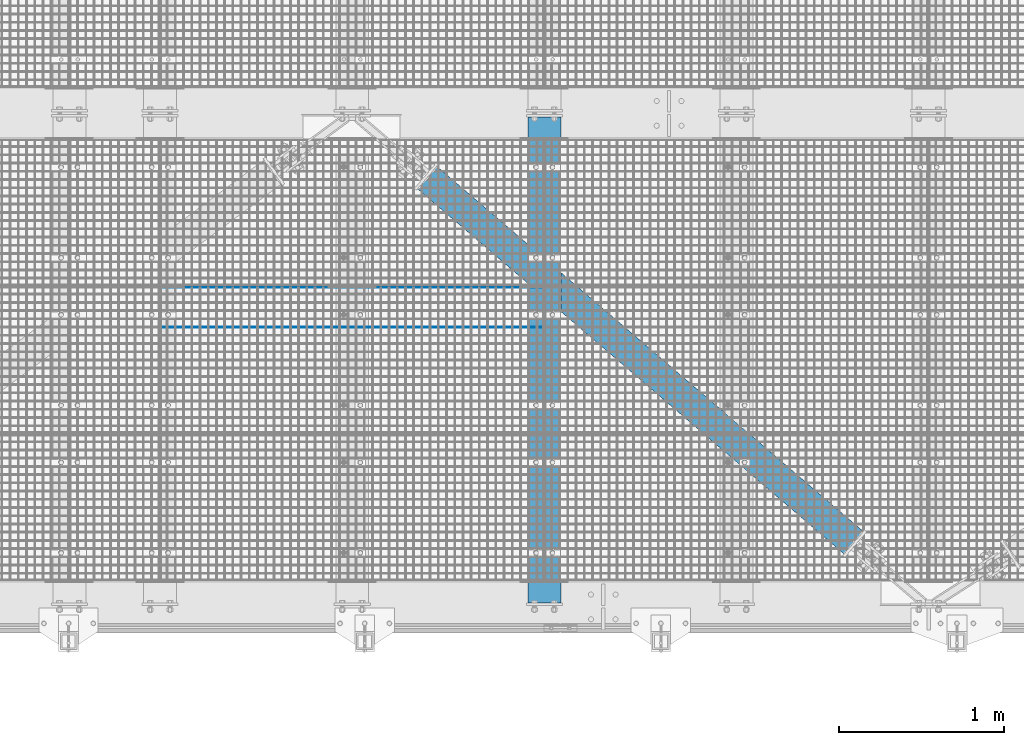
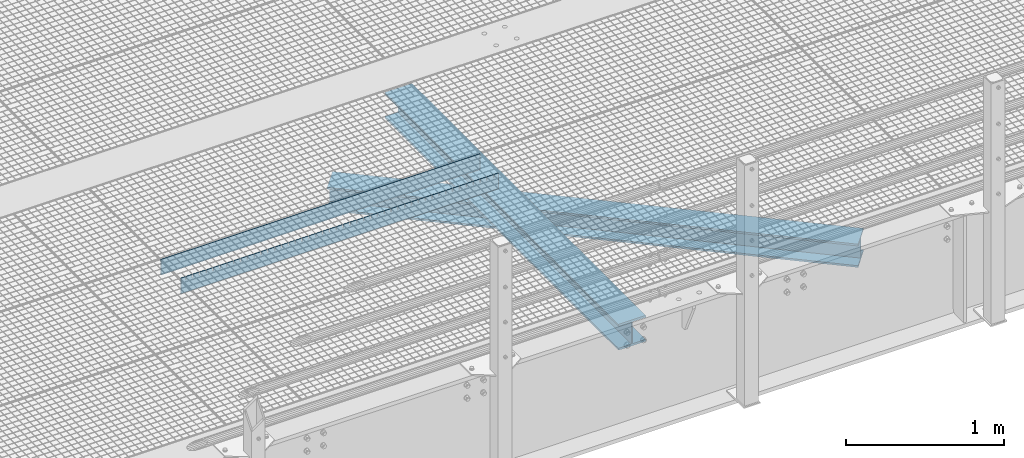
# One storey, part 218 of 1530: 4 beams.
"""IFC2X3 building model written with IfcOpenShell, lengths in millimetres."""

from ifc_helpers import new_model, si_unit, frame, origin_with_axes, place, context, subcontext, project, spatial, faceted_brep, material, type_object, element, save


model = new_model("IFC2X3")

# Units and contexts
model_context = context("Model", 3, precision=1e-05, world=origin_with_axes())
body_context = subcontext(model_context, "Body", "Model", "MODEL_VIEW")
ifc_project = project(units=[si_unit("LENGTHUNIT", "METRE", prefix="MILLI"), si_unit("AREAUNIT", "SQUARE_METRE"), si_unit("VOLUMEUNIT", "CUBIC_METRE"), si_unit("MASSUNIT", "GRAM", prefix="KILO"), si_unit("TIMEUNIT", "SECOND"), si_unit("PLANEANGLEUNIT", "RADIAN"), si_unit("SOLIDANGLEUNIT", "STERADIAN"), si_unit("THERMODYNAMICTEMPERATUREUNIT", "DEGREE_CELSIUS"), si_unit("LUMINOUSINTENSITYUNIT", "LUMEN")], contexts=[model_context])

# Site, building, storey
site_placement = place(None, origin_with_axes())
site = spatial("IfcSite", under=ifc_project, at=site_placement, Name="Brattvåg", CompositionType="ELEMENT")
building_placement = place(site_placement, origin_with_axes())
building = spatial("IfcBuilding", under=site, at=building_placement, Name="Undefined", CompositionType="ELEMENT")
storey_placement = place(building_placement, origin_with_axes())
storey = spatial("IfcBuildingStorey", under=building, at=storey_placement, Name="Undefined", CompositionType="ELEMENT", Elevation=0.0)

# Beams
ifc_material_1 = material(Name="STEEL/S355J2")
beam_type_1 = type_object("IfcBeamType", Name="120*5", PredefinedType="NOTDEFINED")
beam_1_placement = place(storey_placement, frame((5234.01317977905, 1699.9952545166, -59.9998626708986), z_axis=(0.0, 0.0, 1.0), x_axis=(-1.0, 1.99999855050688e-09, 0.0)))
element("IfcBeam", 1, at=beam_1_placement, inside=storey, type_object=beam_type_1, material=ifc_material_1, Name="GRATING", context=body_context, shape_type="Brep", body=[
    faceted_brep([(83.5790367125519, -2.50000000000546, 60.0000722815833), (83.5790367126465, -2.50000000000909, 35.0001373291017), (83.5790367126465, 2.50022888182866, 35.0001373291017), (83.5790367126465, 2.5, 60.0), (88.5790367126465, -2.50000000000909, 35.0001373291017), (88.5790367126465, 2.50022888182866, 35.0001373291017), (88.5790367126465, -2.50000000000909, 60.0001373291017), (88.5790367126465, 2.5, 60.0), (38.6284370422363, -2.50000000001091, 60.0001373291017), (38.6284370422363, 2.5, 60.0), (38.6284370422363, 2.49999999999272, 35.0001373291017), (38.6284370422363, -2.50000000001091, 35.0001373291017), (33.6284370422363, 2.49999999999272, 35.0001373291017), (33.6284370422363, -2.50000000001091, 35.0001373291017), (33.6284370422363, -2.5, 60.0), (33.6284370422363, 2.5, 60.0), (0.0, 2.5, 60.0), (0.0, -2.5, 60.0), (0.0, -2.5, -60.0), (0.0, 2.5, -60.0), (2319.99865722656, 2.5, -60.0), (2319.99865722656, -2.5, -60.0), (2319.99865722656, -2.5, 60.0), (2319.99865722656, 2.5, 60.0), (2286.37871932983, 2.5, 60.0), (2286.37871932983, -2.50000000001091, 60.0001373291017), (2286.37871932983, 2.49999999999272, 35.0001373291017), (2286.37871932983, -2.50000000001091, 35.0001373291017), (2281.37871932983, 2.49999999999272, 35.0001373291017), (2281.37871932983, -2.50000000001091, 35.0001373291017), (2281.37871932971, -2.50000000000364, 60.0000634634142), (2281.37871932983, 2.5, 60.0), (2236.42859649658, 2.5, 60.0), (2236.42859649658, -2.50000000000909, 60.0001373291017), (2236.42859649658, 2.50022888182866, 35.0001373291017), (2236.42859649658, -2.50000000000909, 35.0001373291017), (2231.42859649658, 2.50022888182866, 35.0001373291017), (2231.42859649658, -2.50000000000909, 35.0001373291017), (2231.42859649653, -2.50000000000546, 60.0000910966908), (2231.42859649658, 2.5, 60.0), (2186.47847366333, 2.5, 60.0), (2186.47847366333, -2.50000000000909, 60.0001373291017), (2186.47847366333, 2.50022888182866, 35.0001373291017), (2186.47847366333, -2.50000000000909, 35.0001373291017), (2181.47847366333, 2.50022888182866, 35.0001373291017), (2181.47847366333, -2.50000000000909, 35.0001373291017), (2181.47847366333, -2.5, 60.0), (2181.47847366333, 2.5, 60.0), (2136.52882766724, 2.5, 60.0), (2136.52882766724, -2.50000000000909, 60.0001373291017), (2136.52882766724, 2.50022888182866, 35.0001373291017), (2136.52882766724, -2.50000000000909, 35.0001373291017), (2131.52882766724, 2.50022888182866, 35.0001373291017), (2131.52882766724, -2.50000000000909, 35.0001373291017), (2131.52882766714, -2.50000000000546, 60.0000722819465), (2131.52882766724, 2.5, 60.0), (2086.57870483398, 2.5, 60.0), (2086.57870483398, -2.50000000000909, 60.0001373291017), (2086.57870483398, 2.50022888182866, 35.0001373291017), (2086.57870483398, -2.50000000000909, 35.0001373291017), (2081.57870483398, 2.50022888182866, 35.0001373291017), (2081.57870483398, -2.50000000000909, 35.0001373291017), (2081.57870483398, -2.5, 60.0), (2081.57870483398, 2.5, 60.0), (2036.62858200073, 2.5, 60.0), (2036.62858200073, -2.50000000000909, 60.0001373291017), (2036.62858200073, 2.50022888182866, 35.0001373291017), (2036.62858200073, -2.50000000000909, 35.0001373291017), (2031.62858200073, 2.50022888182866, 35.0001373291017), (2031.62858200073, -2.50000000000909, 35.0001373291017), (2031.62858200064, -2.50000000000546, 60.0000722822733), (2031.62858200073, 2.5, 60.0), (1986.67845916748, 2.5, 60.0), (1986.67845916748, -2.50000000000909, 60.0001373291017), (1986.67845916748, 2.50022888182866, 35.0001373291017), (1986.67845916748, -2.50000000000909, 35.0001373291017), (1981.67845916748, 2.50022888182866, 35.0001373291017), (1981.67845916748, -2.50000000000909, 35.0001373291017), (1981.67845916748, -2.5, 60.0), (1981.67845916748, 2.5, 60.0), (1936.72881317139, 2.5, 60.0), (1936.72881317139, -2.50000000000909, 60.0001373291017), (1936.72881317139, 2.50022888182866, 35.0001373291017), (1936.72881317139, -2.50000000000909, 35.0001373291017), (1931.72881317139, 2.50022888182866, 35.0001373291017), (1931.72881317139, -2.50000000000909, 35.0001373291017), (1931.72881317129, -2.50000000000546, 60.0000722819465), (1931.72881317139, 2.5, 60.0), (1886.77869033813, 2.5, 60.0), (1886.77869033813, -2.50000000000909, 60.0001373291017), (1886.77869033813, 2.50022888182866, 35.0001373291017), (1886.77869033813, -2.50000000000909, 35.0001373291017), (1881.77869033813, 2.50022888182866, 35.0001373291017), (1881.77869033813, -2.50000000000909, 35.0001373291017), (1881.77869033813, -2.5, 60.0), (1881.77869033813, 2.5, 60.0), (1836.82856750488, 2.5, 60.0), (1836.82856750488, -2.50000000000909, 60.0001373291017), (1836.82856750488, 2.50022888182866, 35.0001373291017), (1836.82856750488, -2.50000000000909, 35.0001373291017), (1831.82856750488, 2.50022888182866, 35.0001373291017), (1831.82856750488, -2.50000000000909, 35.0001373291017), (1831.82856750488, -2.5, 60.0), (1831.82856750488, 2.5, 60.0), (1786.87892150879, 2.5, 60.0), (1786.87892150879, -2.50000000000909, 60.0001373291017), (1786.87892150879, 2.50022888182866, 35.0001373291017), (1786.87892150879, -2.50000000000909, 35.0001373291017), (1781.87892150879, 2.50022888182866, 35.0001373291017), (1781.87892150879, -2.50000000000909, 35.0001373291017), (1781.87892150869, -2.50000000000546, 60.0000722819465), (1781.87892150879, 2.5, 60.0), (1736.92879867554, 2.5, 60.0), (1736.92879867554, -2.50000000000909, 60.0001373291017), (1736.92879867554, 2.50022888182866, 35.0001373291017), (1736.92879867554, -2.50000000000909, 35.0001373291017), (1731.92879867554, 2.50022888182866, 35.0001373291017), (1731.92879867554, -2.50000000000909, 35.0001373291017), (1731.92879867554, -2.5, 60.0), (1731.92879867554, 2.5, 60.0), (1686.97867584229, 2.5, 60.0), (1686.97867584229, -2.50000000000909, 60.0001373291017), (1686.97867584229, 2.50022888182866, 35.0001373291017), (1686.97867584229, -2.50000000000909, 35.0001373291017), (1681.97867584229, 2.50022888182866, 35.0001373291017), (1681.97867584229, -2.50000000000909, 35.0001373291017), (1681.97867584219, -2.50000000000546, 60.0000722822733), (1681.97867584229, 2.5, 60.0), (1637.02855300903, 2.5, 60.0), (1637.02855300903, -2.50000000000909, 60.0001373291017), (1637.02855300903, 2.50022888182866, 35.0001373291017), (1637.02855300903, -2.50000000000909, 35.0001373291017), (1632.02855300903, 2.50022888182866, 35.0001373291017), (1632.02855300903, -2.50000000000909, 35.0001373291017), (1632.02855300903, -2.5, 60.0), (1632.02855300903, 2.5, 60.0), (1587.07890701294, 2.5, 60.0), (1587.07890701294, -2.50000000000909, 60.0001373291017), (1587.07890701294, 2.50022888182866, 35.0001373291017), (1587.07890701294, -2.50000000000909, 35.0001373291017), (1582.07890701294, 2.50022888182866, 35.0001373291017), (1582.07890701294, -2.50000000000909, 35.0001373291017), (1582.07890701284, -2.50000000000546, 60.0000722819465), (1582.07890701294, 2.5, 60.0), (1537.12878417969, 2.5, 60.0), (1537.12878417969, -2.50000000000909, 60.0001373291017), (1537.12878417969, 2.50022888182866, 35.0001373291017), (1537.12878417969, -2.50000000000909, 35.0001373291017), (1532.12878417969, 2.50022888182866, 35.0001373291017), (1532.12878417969, -2.50000000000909, 35.0001373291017), (1532.12878417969, -2.5, 60.0), (1532.12878417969, 2.5, 60.0), (1487.17866134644, 2.5, 60.0), (1487.17866134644, -2.50000000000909, 60.0001373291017), (1487.17866134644, 2.50022888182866, 35.0001373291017), (1487.17866134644, -2.50000000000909, 35.0001373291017), (1482.17866134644, 2.50022888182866, 35.0001373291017), (1482.17866134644, -2.50000000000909, 35.0001373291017), (1482.17866134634, -2.50000000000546, 60.0000722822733), (1482.17866134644, 2.5, 60.0), (1437.22853851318, 2.5, 60.0), (1437.22853851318, -2.50000000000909, 60.0001373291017), (1437.22853851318, 2.50022888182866, 35.0001373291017), (1437.22853851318, -2.50000000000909, 35.0001373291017), (1432.22853851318, 2.50022888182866, 35.0001373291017), (1432.22853851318, -2.50000000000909, 35.0001373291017), (1432.22853851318, -2.5, 60.0), (1432.22853851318, 2.5, 60.0), (1387.27889251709, 2.5, 60.0), (1387.27889251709, -2.50000000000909, 60.0001373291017), (1387.27889251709, 2.50022888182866, 35.0001373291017), (1387.27889251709, -2.50000000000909, 35.0001373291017), (1382.27889251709, 2.50022888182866, 35.0001373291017), (1382.27889251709, -2.50000000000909, 35.0001373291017), (1382.278892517, -2.50000000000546, 60.0000722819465), (1382.27889251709, 2.5, 60.0), (1337.32876968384, 2.5, 60.0), (1337.32876968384, -2.50000000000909, 60.0001373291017), (1337.32876968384, 2.50022888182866, 35.0001373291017), (1337.32876968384, -2.50000000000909, 35.0001373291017), (1332.32876968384, 2.50022888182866, 35.0001373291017), (1332.32876968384, -2.50000000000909, 35.0001373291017), (1332.32876968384, -2.5, 60.0), (1332.32876968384, 2.5, 60.0), (1287.37864685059, 2.5, 60.0), (1287.37864685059, -2.50000000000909, 60.0001373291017), (1287.37864685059, 2.50022888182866, 35.0001373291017), (1287.37864685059, -2.50000000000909, 35.0001373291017), (1282.37864685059, 2.50022888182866, 35.0001373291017), (1282.37864685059, -2.50000000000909, 35.0001373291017), (1282.37864685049, -2.50000000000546, 60.0000722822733), (1282.37864685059, 2.5, 60.0), (1237.42852401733, 2.5, 60.0), (1237.42852401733, -2.50000000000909, 60.0001373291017), (1237.42852401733, 2.50022888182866, 35.0001373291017), (1237.42852401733, -2.50000000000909, 35.0001373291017), (1232.42852401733, 2.50022888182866, 35.0001373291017), (1232.42852401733, -2.50000000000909, 35.0001373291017), (1232.42852401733, -2.5, 60.0), (1232.42852401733, 2.5, 60.0), (1187.47887802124, 2.5, 60.0), (1187.47887802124, -2.50000000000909, 60.0001373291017), (1187.47887802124, 2.50022888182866, 35.0001373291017), (1187.47887802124, -2.50000000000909, 35.0001373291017), (1182.47887802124, 2.50022888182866, 35.0001373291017), (1182.47887802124, -2.50000000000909, 35.0001373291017), (1182.47887802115, -2.50000000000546, 60.0000722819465), (1182.47887802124, 2.5, 60.0), (1137.52875518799, 2.5, 60.0), (1137.52875518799, -2.50000000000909, 60.0001373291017), (1137.52875518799, 2.50022888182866, 35.0001373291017), (1137.52875518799, -2.50000000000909, 35.0001373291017), (1132.52875518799, 2.50022888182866, 35.0001373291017), (1132.52875518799, -2.50000000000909, 35.0001373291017), (1132.52875518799, -2.5, 60.0), (1132.52875518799, 2.5, 60.0), (1087.57863235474, 2.5, 60.0), (1087.57863235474, -2.50000000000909, 60.0001373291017), (1087.57863235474, 2.50022888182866, 35.0001373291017), (1087.57863235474, -2.50000000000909, 35.0001373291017), (1082.57863235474, 2.50022888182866, 35.0001373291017), (1082.57863235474, -2.50000000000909, 35.0001373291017), (1082.57863235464, -2.50000000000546, 60.0000722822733), (1082.57863235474, 2.5, 60.0), (1037.62850952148, 2.5, 60.0), (1037.62850952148, -2.50000000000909, 60.0001373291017), (1037.62850952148, 2.50022888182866, 35.0001373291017), (1037.62850952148, -2.50000000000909, 35.0001373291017), (1032.62850952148, 2.50022888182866, 35.0001373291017), (1032.62850952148, -2.50000000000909, 35.0001373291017), (1032.62850952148, -2.5, 60.0), (1032.62850952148, 2.5, 60.0), (987.678863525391, 2.5, 60.0), (987.678863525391, -2.50000000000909, 60.0001373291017), (987.678863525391, 2.50022888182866, 35.0001373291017), (987.678863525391, -2.50000000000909, 35.0001373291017), (982.678863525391, 2.50022888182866, 35.0001373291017), (982.678863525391, -2.50000000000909, 35.0001373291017), (982.678863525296, -2.50000000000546, 60.0000722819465), (982.678863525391, 2.5, 60.0), (937.728740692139, 2.5, 60.0), (937.728740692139, -2.50000000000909, 60.0001373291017), (937.728740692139, 2.50022888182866, 35.0001373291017), (937.728740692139, -2.50000000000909, 35.0001373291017), (932.728740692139, 2.50022888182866, 35.0001373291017), (932.728740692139, -2.50000000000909, 35.0001373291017), (932.728740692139, -2.5, 60.0), (932.728740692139, 2.5, 60.0), (887.778617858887, 2.5, 60.0), (887.778617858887, -2.50000000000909, 60.0001373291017), (887.778617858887, 2.50022888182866, 35.0001373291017), (887.778617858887, -2.50000000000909, 35.0001373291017), (882.778617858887, 2.50022888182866, 35.0001373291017), (882.778617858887, -2.50000000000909, 35.0001373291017), (882.778617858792, -2.50000000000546, 60.0000722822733), (882.778617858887, 2.5, 60.0), (837.828495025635, 2.5, 60.0), (837.828495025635, -2.50000000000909, 60.0001373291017), (837.828495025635, 2.50022888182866, 35.0001373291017), (837.828495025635, -2.50000000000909, 35.0001373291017), (832.828495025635, 2.50022888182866, 35.0001373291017), (832.828495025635, -2.50000000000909, 35.0001373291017), (832.828495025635, -2.5, 60.0), (832.828495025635, 2.5, 60.0), (787.878849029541, 2.5, 60.0), (787.878849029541, -2.50000000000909, 60.0001373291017), (787.878849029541, 2.50022888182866, 35.0001373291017), (787.878849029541, -2.50000000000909, 35.0001373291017), (782.878849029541, 2.50022888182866, 35.0001373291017), (782.878849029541, -2.50000000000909, 35.0001373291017), (782.878849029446, -2.50000000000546, 60.0000722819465), (782.878849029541, 2.5, 60.0), (737.928726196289, 2.5, 60.0), (737.928726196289, -2.50000000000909, 60.0001373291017), (737.928726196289, 2.50022888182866, 35.0001373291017), (737.928726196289, -2.50000000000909, 35.0001373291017), (732.928726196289, 2.50022888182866, 35.0001373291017), (732.928726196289, -2.50000000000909, 35.0001373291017), (732.928726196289, -2.5, 60.0), (732.928726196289, 2.5, 60.0), (687.978603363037, 2.5, 60.0), (687.978603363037, -2.50000000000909, 60.0001373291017), (687.978603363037, 2.50022888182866, 35.0001373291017), (687.978603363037, -2.50000000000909, 35.0001373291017), (682.978603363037, 2.50022888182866, 35.0001373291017), (682.978603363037, -2.50000000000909, 35.0001373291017), (682.978603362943, -2.50000000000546, 60.0000722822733), (682.978603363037, 2.5, 60.0), (638.028480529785, 2.5, 60.0), (638.028480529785, -2.50000000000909, 60.0001373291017), (638.028480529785, 2.50022888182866, 35.0001373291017), (638.028480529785, -2.50000000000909, 35.0001373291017), (633.028480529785, 2.50022888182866, 35.0001373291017), (633.028480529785, -2.50000000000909, 35.0001373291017), (633.028480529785, -2.5, 60.0), (633.028480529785, 2.5, 60.0), (588.078834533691, 2.5, 60.0), (588.078834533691, -2.50000000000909, 60.0001373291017), (588.078834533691, 2.50022888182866, 35.0001373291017), (588.078834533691, -2.50000000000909, 35.0001373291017), (583.078834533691, 2.50022888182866, 35.0001373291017), (583.078834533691, -2.50000000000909, 35.0001373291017), (583.078834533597, -2.50000000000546, 60.0000722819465), (583.078834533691, 2.5, 60.0), (538.128711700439, 2.5, 60.0), (538.128711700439, -2.50000000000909, 60.0001373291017), (538.128711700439, 2.50022888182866, 35.0001373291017), (538.128711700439, -2.50000000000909, 35.0001373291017), (533.128711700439, 2.50022888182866, 35.0001373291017), (533.128711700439, -2.50000000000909, 35.0001373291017), (533.128711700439, -2.5, 60.0), (533.128711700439, 2.5, 60.0), (488.178588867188, 2.5, 60.0), (488.178588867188, -2.50000000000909, 60.0001373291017), (488.178588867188, 2.50022888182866, 35.0001373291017), (488.178588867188, -2.50000000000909, 35.0001373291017), (483.178588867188, 2.50022888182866, 35.0001373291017), (483.178588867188, -2.50000000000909, 35.0001373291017), (483.178588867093, -2.50000000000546, 60.0000722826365), (483.178588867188, 2.5, 60.0), (438.228942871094, 2.5, 60.0), (438.228942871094, -2.50000000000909, 60.0001373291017), (438.228942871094, 2.50022888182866, 35.0001373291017), (438.228942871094, -2.50000000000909, 35.0001373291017), (433.228942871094, 2.50022888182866, 35.0001373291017), (433.228942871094, -2.50000000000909, 35.0001373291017), (433.228942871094, -2.5, 60.0), (433.228942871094, 2.5, 60.0), (388.278820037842, 2.5, 60.0), (388.278820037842, -2.50000000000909, 60.0001373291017), (388.278820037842, 2.50022888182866, 35.0001373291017), (388.278820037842, -2.50000000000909, 35.0001373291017), (383.278820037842, 2.50022888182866, 35.0001373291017), (383.278820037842, -2.50000000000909, 35.0001373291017), (383.278820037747, -2.50000000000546, 60.0000722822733), (383.278820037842, 2.5, 60.0), (338.32869720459, 2.5, 60.0), (338.32869720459, -2.50000000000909, 60.0001373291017), (338.32869720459, 2.50022888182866, 35.0001373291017), (338.32869720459, -2.50000000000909, 35.0001373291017), (333.32869720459, 2.50022888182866, 35.0001373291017), (333.32869720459, -2.50000000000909, 35.0001373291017), (333.32869720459, -2.5, 60.0), (333.32869720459, 2.5, 60.0), (288.378574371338, 2.5, 60.0), (288.378574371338, -2.50000000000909, 60.0001373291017), (288.378574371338, 2.50022888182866, 35.0001373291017), (288.378574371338, -2.50000000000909, 35.0001373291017), (283.378574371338, 2.50022888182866, 35.0001373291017), (283.378574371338, -2.50000000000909, 35.0001373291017), (283.378574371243, -2.50000000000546, 60.0000722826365), (283.378574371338, 2.5, 60.0), (238.428928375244, 2.5, 60.0), (238.428928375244, -2.50000000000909, 60.0001373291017), (238.428928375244, 2.50022888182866, 35.0001373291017), (238.428928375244, -2.50000000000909, 35.0001373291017), (233.428928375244, 2.50022888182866, 35.0001373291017), (233.428928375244, -2.50000000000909, 35.0001373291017), (233.428928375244, -2.5, 60.0), (233.428928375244, 2.5, 60.0), (188.478328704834, 2.5, 60.0), (188.478328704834, -2.50000000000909, 60.0001373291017), (188.478328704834, 2.50022888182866, 35.0001373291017), (188.478328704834, -2.50000000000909, 35.0001373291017), (183.478328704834, 2.50022888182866, 35.0001373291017), (183.478328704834, -2.50000000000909, 35.0001373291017), (183.478328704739, -2.50000000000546, 60.0000722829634), (183.478328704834, 2.5, 60.0), (138.52868270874, 2.5, 60.0), (138.52868270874, -2.50000000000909, 60.0001373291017), (138.52868270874, 2.50022888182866, 35.0001373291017), (138.52868270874, -2.50000000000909, 35.0001373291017), (133.52868270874, 2.50022888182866, 35.0001373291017), (133.52868270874, -2.50000000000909, 35.0001373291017), (133.52868270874, -2.5, 60.0), (133.52868270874, 2.5, 60.0)], [[[0, 1, 2, 3]], [[4, 5, 2, 1]], [[6, 7, 5, 4]], [[8, 9, 10, 11]], [[11, 10, 12, 13]], [[14, 13, 12, 15]], [[16, 17, 14, 15]], [[18, 17, 16, 19]], [[18, 19, 20, 21]], [[22, 21, 20, 23]], [[22, 23, 24, 25]], [[25, 24, 26, 27]], [[27, 26, 28, 29]], [[30, 29, 28, 31]], [[32, 33, 30, 31]], [[33, 32, 34, 35]], [[35, 34, 36, 37]], [[38, 37, 36, 39]], [[40, 41, 38, 39]], [[41, 40, 42, 43]], [[43, 42, 44, 45]], [[46, 45, 44, 47]], [[46, 47, 48, 49]], [[49, 48, 50, 51]], [[51, 50, 52, 53]], [[54, 53, 52, 55]], [[56, 57, 54, 55]], [[57, 56, 58, 59]], [[59, 58, 60, 61]], [[62, 61, 60, 63]], [[62, 63, 64, 65]], [[65, 64, 66, 67]], [[67, 66, 68, 69]], [[70, 69, 68, 71]], [[72, 73, 70, 71]], [[73, 72, 74, 75]], [[75, 74, 76, 77]], [[78, 77, 76, 79]], [[78, 79, 80, 81]], [[81, 80, 82, 83]], [[83, 82, 84, 85]], [[86, 85, 84, 87]], [[88, 89, 86, 87]], [[89, 88, 90, 91]], [[91, 90, 92, 93]], [[94, 93, 92, 95]], [[94, 95, 96, 97]], [[97, 96, 98, 99]], [[99, 98, 100, 101]], [[102, 101, 100, 103]], [[102, 103, 104, 105]], [[105, 104, 106, 107]], [[107, 106, 108, 109]], [[110, 109, 108, 111]], [[112, 113, 110, 111]], [[113, 112, 114, 115]], [[115, 114, 116, 117]], [[118, 117, 116, 119]], [[118, 119, 120, 121]], [[121, 120, 122, 123]], [[123, 122, 124, 125]], [[126, 125, 124, 127]], [[128, 129, 126, 127]], [[129, 128, 130, 131]], [[131, 130, 132, 133]], [[134, 133, 132, 135]], [[134, 135, 136, 137]], [[137, 136, 138, 139]], [[139, 138, 140, 141]], [[142, 141, 140, 143]], [[144, 145, 142, 143]], [[145, 144, 146, 147]], [[147, 146, 148, 149]], [[150, 149, 148, 151]], [[150, 151, 152, 153]], [[153, 152, 154, 155]], [[155, 154, 156, 157]], [[158, 157, 156, 159]], [[160, 161, 158, 159]], [[161, 160, 162, 163]], [[163, 162, 164, 165]], [[166, 165, 164, 167]], [[166, 167, 168, 169]], [[169, 168, 170, 171]], [[171, 170, 172, 173]], [[174, 173, 172, 175]], [[176, 177, 174, 175]], [[177, 176, 178, 179]], [[179, 178, 180, 181]], [[182, 181, 180, 183]], [[182, 183, 184, 185]], [[185, 184, 186, 187]], [[187, 186, 188, 189]], [[190, 189, 188, 191]], [[192, 193, 190, 191]], [[193, 192, 194, 195]], [[195, 194, 196, 197]], [[198, 197, 196, 199]], [[198, 199, 200, 201]], [[201, 200, 202, 203]], [[203, 202, 204, 205]], [[206, 205, 204, 207]], [[208, 209, 206, 207]], [[209, 208, 210, 211]], [[211, 210, 212, 213]], [[214, 213, 212, 215]], [[214, 215, 216, 217]], [[217, 216, 218, 219]], [[219, 218, 220, 221]], [[222, 221, 220, 223]], [[224, 225, 222, 223]], [[225, 224, 226, 227]], [[227, 226, 228, 229]], [[230, 229, 228, 231]], [[230, 231, 232, 233]], [[233, 232, 234, 235]], [[235, 234, 236, 237]], [[238, 237, 236, 239]], [[240, 241, 238, 239]], [[241, 240, 242, 243]], [[243, 242, 244, 245]], [[246, 245, 244, 247]], [[246, 247, 248, 249]], [[249, 248, 250, 251]], [[251, 250, 252, 253]], [[254, 253, 252, 255]], [[256, 257, 254, 255]], [[257, 256, 258, 259]], [[259, 258, 260, 261]], [[262, 261, 260, 263]], [[262, 263, 264, 265]], [[265, 264, 266, 267]], [[267, 266, 268, 269]], [[270, 269, 268, 271]], [[272, 273, 270, 271]], [[273, 272, 274, 275]], [[275, 274, 276, 277]], [[278, 277, 276, 279]], [[278, 279, 280, 281]], [[281, 280, 282, 283]], [[283, 282, 284, 285]], [[286, 285, 284, 287]], [[288, 289, 286, 287]], [[289, 288, 290, 291]], [[291, 290, 292, 293]], [[294, 293, 292, 295]], [[294, 295, 296, 297]], [[297, 296, 298, 299]], [[299, 298, 300, 301]], [[302, 301, 300, 303]], [[304, 305, 302, 303]], [[305, 304, 306, 307]], [[307, 306, 308, 309]], [[310, 309, 308, 311]], [[310, 311, 312, 313]], [[313, 312, 314, 315]], [[315, 314, 316, 317]], [[318, 317, 316, 319]], [[320, 321, 318, 319]], [[321, 320, 322, 323]], [[323, 322, 324, 325]], [[326, 325, 324, 327]], [[326, 327, 328, 329]], [[329, 328, 330, 331]], [[331, 330, 332, 333]], [[334, 333, 332, 335]], [[336, 337, 334, 335]], [[337, 336, 338, 339]], [[339, 338, 340, 341]], [[342, 341, 340, 343]], [[342, 343, 344, 345]], [[345, 344, 346, 347]], [[347, 346, 348, 349]], [[350, 349, 348, 351]], [[352, 353, 350, 351]], [[353, 352, 354, 355]], [[355, 354, 356, 357]], [[358, 357, 356, 359]], [[358, 359, 360, 361]], [[361, 360, 362, 363]], [[363, 362, 364, 365]], [[366, 365, 364, 367]], [[368, 369, 366, 367]], [[369, 368, 370, 371]], [[371, 370, 372, 373]], [[374, 373, 372, 375]], [[1, 0, 8, 11, 13, 14, 17, 18, 21, 22, 25, 27, 29, 30, 33, 35, 37, 38, 41, 43, 45, 46, 49, 51, 53, 54, 57, 59, 61, 62, 65, 67, 69, 70, 73, 75, 77, 78, 81, 83, 85, 86, 89, 91, 93, 94, 97, 99, 101, 102, 105, 107, 109, 110, 113, 115, 117, 118, 121, 123, 125, 126, 129, 131, 133, 134, 137, 139, 141, 142, 145, 147, 149, 150, 153, 155, 157, 158, 161, 163, 165, 166, 169, 171, 173, 174, 177, 179, 181, 182, 185, 187, 189, 190, 193, 195, 197, 198, 201, 203, 205, 206, 209, 211, 213, 214, 217, 219, 221, 222, 225, 227, 229, 230, 233, 235, 237, 238, 241, 243, 245, 246, 249, 251, 253, 254, 257, 259, 261, 262, 265, 267, 269, 270, 273, 275, 277, 278, 281, 283, 285, 286, 289, 291, 293, 294, 297, 299, 301, 302, 305, 307, 309, 310, 313, 315, 317, 318, 321, 323, 325, 326, 329, 331, 333, 334, 337, 339, 341, 342, 345, 347, 349, 350, 353, 355, 357, 358, 361, 363, 365, 366, 369, 371, 373, 374, 6, 4]], [[9, 8, 0, 3]], [[375, 372, 370, 368, 367, 364, 362, 360, 359, 356, 354, 352, 351, 348, 346, 344, 343, 340, 338, 336, 335, 332, 330, 328, 327, 324, 322, 320, 319, 316, 314, 312, 311, 308, 306, 304, 303, 300, 298, 296, 295, 292, 290, 288, 287, 284, 282, 280, 279, 276, 274, 272, 271, 268, 266, 264, 263, 260, 258, 256, 255, 252, 250, 248, 247, 244, 242, 240, 239, 236, 234, 232, 231, 228, 226, 224, 223, 220, 218, 216, 215, 212, 210, 208, 207, 204, 202, 200, 199, 196, 194, 192, 191, 188, 186, 184, 183, 180, 178, 176, 175, 172, 170, 168, 167, 164, 162, 160, 159, 156, 154, 152, 151, 148, 146, 144, 143, 140, 138, 136, 135, 132, 130, 128, 127, 124, 122, 120, 119, 116, 114, 112, 111, 108, 106, 104, 103, 100, 98, 96, 95, 92, 90, 88, 87, 84, 82, 80, 79, 76, 74, 72, 71, 68, 66, 64, 63, 60, 58, 56, 55, 52, 50, 48, 47, 44, 42, 40, 39, 36, 34, 32, 31, 28, 26, 24, 23, 20, 19, 16, 15, 12, 10, 9, 3, 2, 5, 7]], [[374, 375, 7, 6]]]),
])
beam_2_placement = place(storey_placement, frame((5239.00899291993, 1941.49917602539, -59.9998626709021), z_axis=(0.0, 0.0, 1.0), x_axis=(-1.0, 1.99999855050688e-09, 0.0)))
element("IfcBeam", 2, at=beam_2_placement, inside=storey, type_object=beam_type_1, material=ifc_material_1, Name="GRATING", context=body_context, shape_type="Brep", body=[
    faceted_brep([(0.0, 2.5, -60.0), (0.0, 2.5, 60.0), (2329.99832153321, 2.5, 60.0), (2329.99832153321, 2.5, -60.0), (0.0, -2.5, 60.0), (2329.99832153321, -2.5, 60.0), (0.0, -2.5, -60.0), (2329.99832153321, -2.5, -60.0)], [[[0, 1, 2, 3]], [[1, 4, 5, 2]], [[4, 6, 7, 5]], [[6, 0, 3, 7]], [[5, 7, 3, 2]], [[6, 4, 1, 0]]]),
])
ifc_material_2 = material(Name="STEEL/S355J2+N")
beam_type_2 = type_object("IfcBeamType", Name="HEB180", PredefinedType="NOTDEFINED")
beam_3_placement = place(storey_placement, frame((7122.98531467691, 389.56724212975, -445.0), z_axis=(0.0, 0.0, 1.0), x_axis=(-0.759623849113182, 0.650362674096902, 0.0)))
element("IfcBeam", 3, at=beam_3_placement, inside=storey, type_object=beam_type_2, material=ifc_material_2, Name="STÅLBJELKE", context=body_context, shape_type="Brep", body=[
    faceted_brep([(5.45696821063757e-12, 90.0000000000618, -90.0), (5.45696821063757e-12, 90.0000000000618, -76.0), (3414.81084731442, 90.0000000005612, -76.0), (3414.81084731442, 90.0000000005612, -90.0), (-9.09494701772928e-13, 4.25000000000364, -76.0), (3414.81084731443, 4.25000000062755, -76.0), (-9.09494701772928e-13, 4.25000000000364, 76.0), (3414.81084731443, 4.25000000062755, 76.0), (5.45696821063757e-12, 90.0000000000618, 76.0), (3414.81084731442, 90.0000000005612, 76.0), (5.45696821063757e-12, 90.0000000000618, 90.0), (3414.81084731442, 90.0000000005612, 90.0), (-6.3664629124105e-12, -90.00000000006, 90.0), (3414.81084731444, -89.9999999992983, 90.0), (-6.3664629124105e-12, -90.00000000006, 76.0), (3414.81084731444, -89.9999999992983, 76.0), (0.0, -4.25000000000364, 76.0), (3414.81084731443, -4.24999999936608, 76.0), (0.0, -4.25000000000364, -76.0), (3414.81084731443, -4.24999999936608, -76.0), (-6.3664629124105e-12, -90.00000000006, -76.0), (3414.81084731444, -89.9999999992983, -76.0), (-6.3664629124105e-12, -90.00000000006, -90.0), (3414.81084731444, -89.9999999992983, -90.0)], [[[0, 1, 2, 3]], [[1, 4, 5, 2]], [[4, 6, 7, 5]], [[6, 8, 9, 7]], [[8, 10, 11, 9]], [[10, 12, 13, 11]], [[12, 14, 15, 13]], [[14, 16, 17, 15]], [[16, 18, 19, 17]], [[18, 20, 21, 19]], [[20, 22, 23, 21]], [[22, 0, 3, 23]], [[5, 7, 9, 11, 13, 15, 17, 19, 21, 23, 3, 2]], [[22, 20, 18, 16, 14, 12, 10, 8, 6, 4, 1, 0]]]),
])
beam_type_3 = type_object("IfcBeamType", Name="HEB200", PredefinedType="NOTDEFINED")
beam_4_placement = place(storey_placement, frame((5242.00112915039, 23.0015563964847, -219.998931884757), z_axis=(0.0, 0.0, 1.0), x_axis=(0.0, 1.0, 0.0)))
element("IfcBeam", 4, at=beam_4_placement, inside=storey, type_object=beam_type_3, material=ifc_material_2, Name="STÅLBJELKE", context=body_context, shape_type="Brep", body=[
    faceted_brep([(0.0, 100.0, -100.0), (0.0, 100.0, -85.0), (2953.99993896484, 100.0, -85.0), (2953.99993896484, 100.0, -100.0), (0.0, 4.5, -85.0), (2953.99993896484, 4.5, -85.0), (0.0, 4.5, 85.0), (2953.99993896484, 4.5, 85.0), (0.0, 100.0, 85.0), (2953.99993896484, 100.0, 85.0), (0.0, 100.0, 100.0), (2953.99993896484, 100.0, 100.0), (0.0, -100.0, 100.0), (2953.99993896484, -100.0, 100.0), (0.0, -100.0, 85.0), (2953.99993896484, -100.0, 85.0), (0.0, -4.5, 85.0), (2953.99993896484, -4.5, 85.0), (0.0, -4.5, -85.0), (2953.99993896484, -4.5, -85.0), (0.0, -100.0, -85.0), (2953.99993896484, -100.0, -85.0), (0.0, -100.0, -100.0), (2953.99993896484, -100.0, -100.0)], [[[0, 1, 2, 3]], [[1, 4, 5, 2]], [[4, 6, 7, 5]], [[6, 8, 9, 7]], [[8, 10, 11, 9]], [[10, 12, 13, 11]], [[12, 14, 15, 13]], [[14, 16, 17, 15]], [[16, 18, 19, 17]], [[18, 20, 21, 19]], [[20, 22, 23, 21]], [[22, 0, 3, 23]], [[5, 7, 9, 11, 13, 15, 17, 19, 21, 23, 3, 2]], [[22, 20, 18, 16, 14, 12, 10, 8, 6, 4, 1, 0]]]),
])

save(model, "model.ifc")
